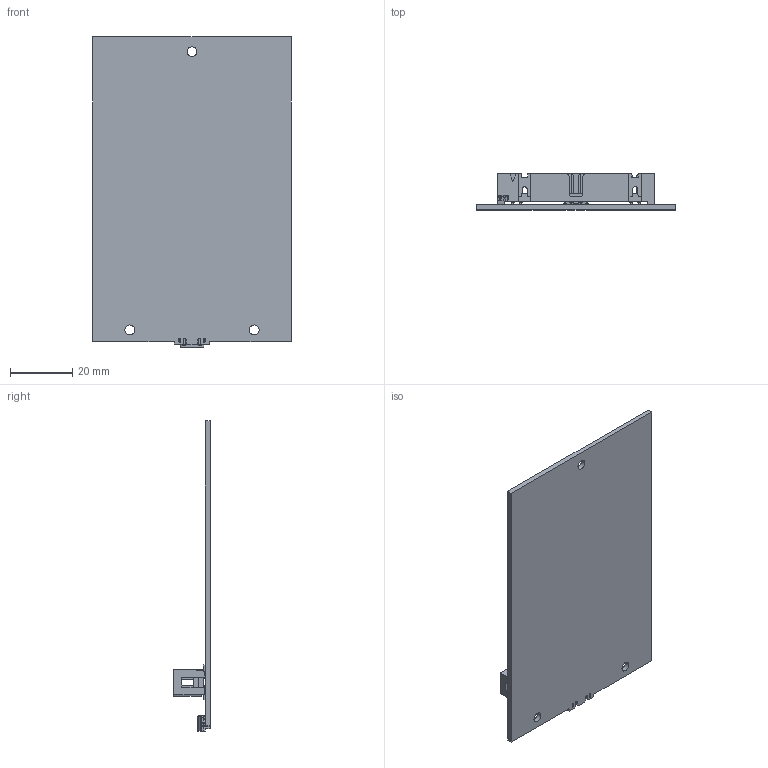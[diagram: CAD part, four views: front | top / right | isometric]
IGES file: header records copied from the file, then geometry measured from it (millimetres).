
Start section:  PTC IGES file: cu_usb-600x-oem.igs
Global section: file name: cu_usb-600x-oem.igs; native system: Creo Parametric by Parametric Technology Corporation; preprocessor: 2014000; author: dkendric; organization: Unknown; date: 20140818.115313; units: inch
Bounding box: 64.01 x 11.73 x 99.82 mm (x, y, z)
Surface area: 16097.2 mm2 (no closed solid volume)
Topology: 0 solids, 0 shells, 865 faces, 4910 edges, 4908 vertices
Faces by surface type: bspline 663, revolution 182, extrusion 20
